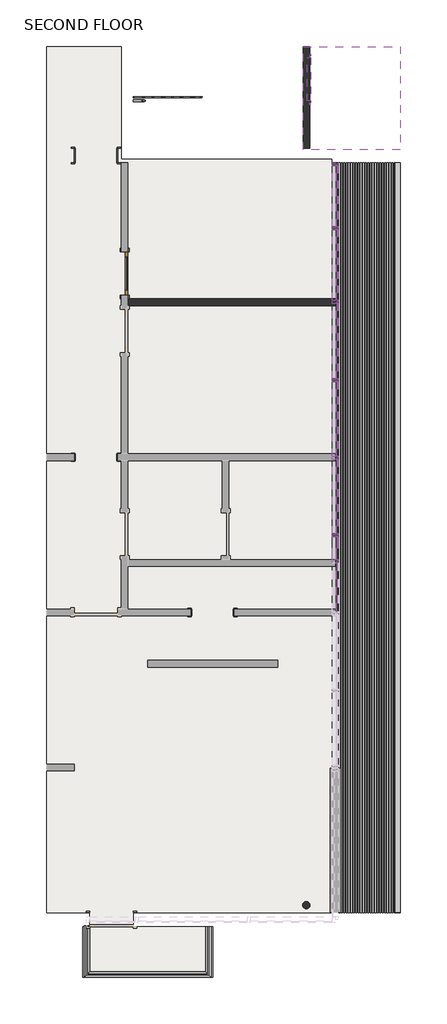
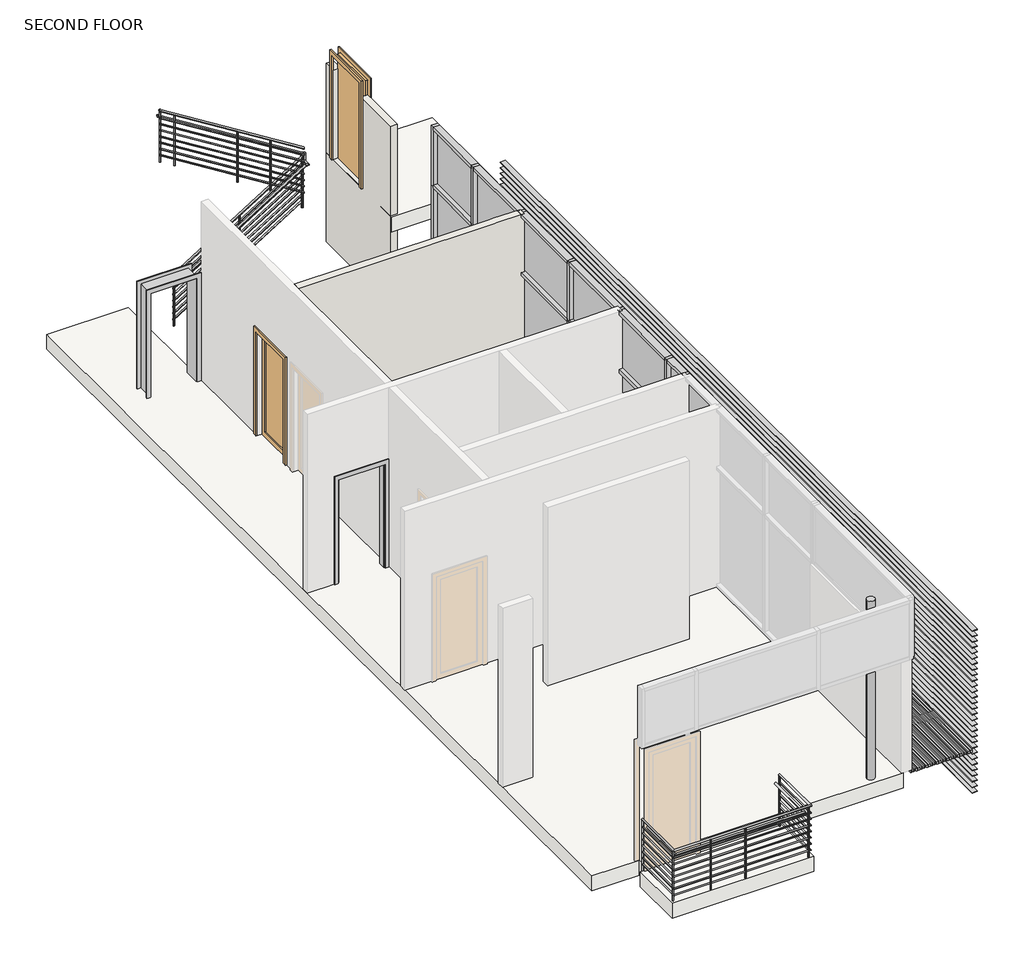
# One storey, part 2 of 2: 33 members, 14 plates, 5 proxies, 2 doors, 2 railings, 2 slabs, 2 walls, 1 column.
"""IFC4 building model written with IfcOpenShell, lengths in millimetres."""

from ifc_helpers import new_model, si_unit, point, frame, frame_2d, origin, place, context, project, spatial, polyline, circle_curve, trimmed, segment, composite_curve, outline, extrude, faceted_brep, transform, mapped, element, save
from components import balcony_floor_grill_balcony_floor_grill_0aae0050, balcony_wall_grill_balcony_wall_grill_33bcebcc, proxy_e62dbe84, proxy_6a329109, door_9814c99b, door_e49b49a8, member_f0fea5a5, member_591cd9a7, member_6ce1ec76, member_2b49869a, member_307239a2, member_323df77c, member_f5e9092a, member_d9503739, member_86d06fe4, member_b964ebf8, member_798c2a08, member_d386c7f1, member_79ceace6, member_75074519, member_ee409385, system_panel_system_panel_6c834083, system_panel_system_panel_0ca576fe, system_panel_system_panel_667b8a08, system_panel_system_panel_025269df, system_panel_system_panel_648afc43, system_panel_system_panel_8dc24f12, system_panel_system_panel_4f7dd7d8, system_panel_system_panel_d8a96c84, system_panel_system_panel_28f56e6c, system_panel_system_panel_3d0aa47e, system_panel_system_panel_958c1d96, system_panel_system_panel_35b29ec2, guardrail_pipe_d0326d6f, guardrail_pipe_03ab10f1

model = new_model("IFC4")

# Units and contexts
model_context = context("Model", 3, world=origin())
ifc_project = project(units=[si_unit("LENGTHUNIT", "METRE", prefix="MILLI")], contexts=[model_context])

# Site, building, storey
site = spatial("IfcSite", under=ifc_project)
building = spatial("IfcBuilding", under=site)
storey = spatial("IfcBuildingStorey", under=building, Name="SECOND FLOOR", Elevation=7315.2)

# Proxies
placement = place(None, origin())
balcony_floor_grill_balcony_floor_grill_shape = balcony_floor_grill_balcony_floor_grill_0aae0050(model_context)
element("IfcBuildingElementProxy", 1, Name="Balcony floor grill : Balcony floor grill", ObjectType="Balcony floor grill : Balcony floor grill", at=placement, inside=storey, context=model_context, shape_type="MappedRepresentation", body=[
    mapped(balcony_floor_grill_balcony_floor_grill_shape, transform((1705.1560388, 9152.359643, 7315.2), x_axis=(1.0, 0.0, 0.0), y_axis=(0.0, 1.0, 0.0), z_axis=(0.0, 0.0, 1.0))),
])
balcony_wall_grill_balcony_wall_grill_shape = balcony_wall_grill_balcony_wall_grill_33bcebcc(model_context)
element("IfcBuildingElementProxy", 2, Name="Balcony wall grill : Balcony wall grill", ObjectType="Balcony wall grill : Balcony wall grill", at=placement, inside=storey, context=model_context, shape_type="MappedRepresentation", body=[
    mapped(balcony_wall_grill_balcony_wall_grill_shape, transform((2898.9560388, 9152.359643, 7315.2), x_axis=(1.0, 0.0, 0.0), y_axis=(0.0, 1.0, 0.0), z_axis=(0.0, 0.0, 1.0))),
])
proxy_shape = proxy_e62dbe84(model_context)
element("IfcBuildingElementProxy", 3, Name="Opening-Cased : 36\" x 84\"", ObjectType="Opening-Cased : 36\" x 84\"", at=placement, inside=storey, context=model_context, shape_type="MappedRepresentation", body=[
    mapped(proxy_shape, transform((-970.0326179, -346.3689983, 7315.2), x_axis=(-1.0, 0.0, 0.0), y_axis=(0.0, -1.0, 0.0), z_axis=(0.0, 0.0, 1.0))),
])
element("IfcBuildingElementProxy", 4, Name="Opening-Cased : 36\" x 84\"", ObjectType="Opening-Cased : 36\" x 84\"", at=placement, inside=storey, context=model_context, shape_type="MappedRepresentation", body=[
    mapped(proxy_shape, transform((-3430.4685465, 2930.2310017, 7315.2), x_axis=(-1.0, 0.0, 0.0), y_axis=(0.0, -1.0, 0.0), z_axis=(0.0, 0.0, 1.0))),
])
proxy_2_shape = proxy_6a329109(model_context)
element("IfcBuildingElementProxy", 5, Name="Opening-Cased : 36\" x 84\"", ObjectType="Opening-Cased : 36\" x 84\"", at=placement, inside=storey, context=model_context, shape_type="MappedRepresentation", body=[
    mapped(proxy_2_shape, transform((-3430.4685465, 9304.759643, 7315.2), x_axis=(-1.0, 0.0, 0.0), y_axis=(0.0, -1.0, 0.0), z_axis=(0.0, 0.0, 1.0))),
])

# Column
element("IfcColumn", 6, ObjectType="Round Column : 06\" Diameter", at=placement, inside=storey, context=model_context, shape_type="SweptSolid", body=[
    extrude(outline(composite_curve([segment(trimmed(circle_curve(frame_2d((1019.3560388, -6532.140357)), 76.2), [point((1095.5560388, -6532.140357))], [point((943.1560388, -6532.140357))], False, "CARTESIAN"), True, "CONTINUOUS"), segment(trimmed(circle_curve(frame_2d((1019.3560388, -6532.140357)), 76.2), [point((943.1560388, -6532.140357))], [point((1019.3560388, -6455.940357))], False, "CARTESIAN"), True, "CONTINUOUS"), segment(trimmed(circle_curve(frame_2d((1019.3560388, -6532.140357)), 76.2), [point((1019.3560388, -6455.940357))], [point((1095.5560388, -6532.140357))], False, "CARTESIAN"), True, "CONTINUOUS")], self_intersect=False)), frame((0.0, 0.0, 7315.2), z_axis=(0.0, 0.0, 1.0), x_axis=(1.0, 0.0, 0.0)), (0.0, 0.0, 1.0), 3657.6),
])

# Doors
door_shape = door_9814c99b(model_context)
element("IfcDoor", 7, ObjectType="Single-Flush : 36\" x 84\"", at=placement, inside=storey, context=model_context, shape_type="MappedRepresentation", body=[
    mapped(door_shape, transform((1019.3560388, 10911.309643, 9144.0), x_axis=(0.0, 1.0, 0.0), y_axis=(-1.0, 0.0, 0.0), z_axis=(0.0, 0.0, 1.0))),
])
door_2_shape = door_e49b49a8(model_context)
element("IfcDoor", 8, ObjectType="Single-Glass 1 : 36\" x 84\"", at=placement, inside=storey, context=model_context, shape_type="MappedRepresentation", body=[
    mapped(door_2_shape, transform((-2819.1604947, 6812.3266583, 7315.2), x_axis=(0.0, -1.0, 0.0), y_axis=(1.0, 0.0, 0.0), z_axis=(0.0, 0.0, 1.0))),
])

# Members
member_shape = member_f0fea5a5(model_context)
element("IfcMember", 9, ObjectType="Rectangular Mullion : 2.5\" x 5\" rectangular", at=placement, inside=storey, context=model_context, shape_type="MappedRepresentation", body=[
    mapped(member_shape, transform((1628.9560388, 2916.659643, 7315.2), x_axis=(0.0, -1.0, 0.0), y_axis=(-1.0, 0.0, 0.0), z_axis=(0.0, 0.0, -1.0))),
])
element("IfcMember", 10, ObjectType="Rectangular Mullion : 2.5\" x 5\" rectangular", at=placement, inside=storey, context=model_context, shape_type="MappedRepresentation", body=[
    mapped(member_shape, transform((1628.9560388, 6218.659643, 7315.2), x_axis=(0.0, -1.0, 0.0), y_axis=(-1.0, 0.0, 0.0), z_axis=(0.0, 0.0, -1.0))),
])
element("IfcMember", 11, ObjectType="Rectangular Mullion : 2.5\" x 5\" rectangular", at=placement, inside=storey, context=model_context, shape_type="MappedRepresentation", body=[
    mapped(member_shape, transform((1628.9560388, 4554.959643, 7315.2), x_axis=(0.0, -1.0, 0.0), y_axis=(-1.0, 0.0, 0.0), z_axis=(0.0, 0.0, -1.0))),
])
element("IfcMember", 12, ObjectType="Rectangular Mullion : 2.5\" x 5\" rectangular", at=placement, inside=storey, context=model_context, shape_type="MappedRepresentation", body=[
    mapped(member_shape, transform((1628.9560388, 1278.359643, 7315.2), x_axis=(0.0, -1.0, 0.0), y_axis=(-1.0, 0.0, 0.0), z_axis=(0.0, 0.0, -1.0))),
])
element("IfcMember", 13, ObjectType="Rectangular Mullion : 2.5\" x 5\" rectangular", at=placement, inside=storey, context=model_context, shape_type="MappedRepresentation", body=[
    mapped(member_shape, transform((1628.9560388, 7768.059643, 7315.2), x_axis=(0.0, -1.0, 0.0), y_axis=(-1.0, 0.0, 0.0), z_axis=(0.0, 0.0, -1.0))),
])
element("IfcMember", 14, ObjectType="Rectangular Mullion : 2.5\" x 5\" rectangular", at=placement, inside=storey, context=model_context, shape_type="MappedRepresentation", body=[
    mapped(member_shape, transform((1628.9560388, 732.259643, 7315.2), x_axis=(0.0, -1.0, 0.0), y_axis=(-1.0, 0.0, 0.0), z_axis=(0.0, 0.0, -1.0))),
])
member_2_shape = member_591cd9a7(model_context)
element("IfcMember", 15, ObjectType="Rectangular Mullion : 2.5\" x 5\" rectangular", at=placement, inside=storey, context=model_context, shape_type="MappedRepresentation", body=[
    mapped(member_2_shape, transform((1628.9560388, 1310.109643, 9753.6), x_axis=(0.0, 0.0, 1.0), y_axis=(-1.0, 0.0, 0.0), z_axis=(0.0, -1.0, 0.0))),
])
element("IfcMember", 16, ObjectType="Rectangular Mullion : 2.5\" x 5\" rectangular", at=placement, inside=storey, context=model_context, shape_type="MappedRepresentation", body=[
    mapped(member_2_shape, transform((1628.9560388, 2948.409643, 9753.6), x_axis=(0.0, 0.0, 1.0), y_axis=(-1.0, 0.0, 0.0), z_axis=(0.0, -1.0, 0.0))),
])
member_3_shape = member_6ce1ec76(model_context)
element("IfcMember", 17, ObjectType="Rectangular Mullion : 2.5\" x 5\" rectangular", at=placement, inside=storey, context=model_context, shape_type="MappedRepresentation", body=[
    mapped(member_3_shape, transform((1628.9560388, 2948.409643, 10972.8), x_axis=(0.0, 0.0, 1.0), y_axis=(-1.0, 0.0, 0.0), z_axis=(0.0, -1.0, 0.0))),
])
element("IfcMember", 18, ObjectType="Rectangular Mullion : 2.5\" x 5\" rectangular", at=placement, inside=storey, context=model_context, shape_type="MappedRepresentation", body=[
    mapped(member_3_shape, transform((1628.9560388, 1310.109643, 10972.8), x_axis=(0.0, 0.0, 1.0), y_axis=(-1.0, 0.0, 0.0), z_axis=(0.0, -1.0, 0.0))),
])
member_4_shape = member_2b49869a(model_context)
element("IfcMember", 19, ObjectType="Rectangular Mullion : 2.5\" x 5\" rectangular", at=placement, inside=storey, context=model_context, shape_type="MappedRepresentation", body=[
    mapped(member_4_shape, transform((1628.9560388, 2916.659643, 9753.6), x_axis=(0.0, -1.0, 0.0), y_axis=(-1.0, 0.0, 0.0), z_axis=(0.0, 0.0, -1.0))),
])
element("IfcMember", 20, ObjectType="Rectangular Mullion : 2.5\" x 5\" rectangular", at=placement, inside=storey, context=model_context, shape_type="MappedRepresentation", body=[
    mapped(member_4_shape, transform((1628.9560388, 6218.659643, 9753.6), x_axis=(0.0, -1.0, 0.0), y_axis=(-1.0, 0.0, 0.0), z_axis=(0.0, 0.0, -1.0))),
])
element("IfcMember", 21, ObjectType="Rectangular Mullion : 2.5\" x 5\" rectangular", at=placement, inside=storey, context=model_context, shape_type="MappedRepresentation", body=[
    mapped(member_4_shape, transform((1628.9560388, 4554.959643, 9753.6), x_axis=(0.0, -1.0, 0.0), y_axis=(-1.0, 0.0, 0.0), z_axis=(0.0, 0.0, -1.0))),
])
element("IfcMember", 22, ObjectType="Rectangular Mullion : 2.5\" x 5\" rectangular", at=placement, inside=storey, context=model_context, shape_type="MappedRepresentation", body=[
    mapped(member_4_shape, transform((1628.9560388, 1278.359643, 9753.6), x_axis=(0.0, -1.0, 0.0), y_axis=(-1.0, 0.0, 0.0), z_axis=(0.0, 0.0, -1.0))),
])
element("IfcMember", 23, ObjectType="Rectangular Mullion : 2.5\" x 5\" rectangular", at=placement, inside=storey, context=model_context, shape_type="MappedRepresentation", body=[
    mapped(member_4_shape, transform((1628.9560388, 7768.059643, 9753.6), x_axis=(0.0, -1.0, 0.0), y_axis=(-1.0, 0.0, 0.0), z_axis=(0.0, 0.0, -1.0))),
])
element("IfcMember", 24, ObjectType="Rectangular Mullion : 2.5\" x 5\" rectangular", at=placement, inside=storey, context=model_context, shape_type="MappedRepresentation", body=[
    mapped(member_4_shape, transform((1628.9560388, 732.259643, 9753.6), x_axis=(0.0, -1.0, 0.0), y_axis=(-1.0, 0.0, 0.0), z_axis=(0.0, 0.0, -1.0))),
])
member_5_shape = member_307239a2(model_context)
element("IfcMember", 25, ObjectType="Rectangular Mullion : 2.5\" x 5\" rectangular", at=placement, inside=storey, context=model_context, shape_type="MappedRepresentation", body=[
    mapped(member_5_shape, transform((1628.9560388, 4586.709643, 9753.6), x_axis=(0.0, 0.0, 1.0), y_axis=(-1.0, 0.0, 0.0), z_axis=(0.0, -0.9999999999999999, 0.0))),
])
member_6_shape = member_323df77c(model_context)
element("IfcMember", 26, ObjectType="Rectangular Mullion : 2.5\" x 5\" rectangular", at=placement, inside=storey, context=model_context, shape_type="MappedRepresentation", body=[
    mapped(member_6_shape, transform((1628.9560388, 764.009643, 9753.6), x_axis=(0.0, 0.0, 1.0), y_axis=(-1.0, 0.0, 0.0), z_axis=(0.0, -1.0, 0.0))),
])
member_7_shape = member_f5e9092a(model_context)
element("IfcMember", 27, ObjectType="Rectangular Mullion : 2.5\" x 5\" rectangular", at=placement, inside=storey, context=model_context, shape_type="MappedRepresentation", body=[
    mapped(member_7_shape, transform((1628.9560388, 6250.409643, 9753.6), x_axis=(0.0, 0.0, 1.0), y_axis=(-1.0, 0.0, 0.0), z_axis=(0.0, -1.0, 0.0))),
])
member_8_shape = member_d9503739(model_context)
element("IfcMember", 28, ObjectType="Rectangular Mullion : 2.5\" x 5\" rectangular", at=placement, inside=storey, context=model_context, shape_type="MappedRepresentation", body=[
    mapped(member_8_shape, transform((1628.9560388, 4586.709643, 10972.8), x_axis=(0.0, 0.0, 1.0), y_axis=(-1.0, 0.0, 0.0), z_axis=(0.0, -1.0, 0.0))),
])
member_9_shape = member_86d06fe4(model_context)
element("IfcMember", 29, ObjectType="Rectangular Mullion : 2.5\" x 5\" rectangular", at=placement, inside=storey, context=model_context, shape_type="MappedRepresentation", body=[
    mapped(member_9_shape, transform((1628.9560388, 764.009643, 10972.8), x_axis=(0.0, 0.0, 1.0), y_axis=(-1.0, 0.0, 0.0), z_axis=(0.0, -1.0, 0.0))),
])
member_10_shape = member_b964ebf8(model_context)
element("IfcMember", 30, ObjectType="Rectangular Mullion : 2.5\" x 5\" rectangular", at=placement, inside=storey, context=model_context, shape_type="MappedRepresentation", body=[
    mapped(member_10_shape, transform((1628.9560388, 6250.409643, 10972.8), x_axis=(0.0, 0.0, 1.0), y_axis=(-1.0, 0.0, 0.0), z_axis=(0.0, -1.0, 0.0))),
])
member_11_shape = member_798c2a08(model_context)
element("IfcMember", 31, ObjectType="Rectangular Mullion : 2.5\" x 5\" rectangular", at=placement, inside=storey, context=model_context, shape_type="MappedRepresentation", body=[
    mapped(member_11_shape, transform((1628.9560388, 7799.809643, 10972.8), x_axis=(0.0, 0.0, 1.0), y_axis=(-1.0, 0.0, 0.0), z_axis=(0.0, -1.0, 0.0))),
])
member_12_shape = member_d386c7f1(model_context)
element("IfcMember", 32, ObjectType="Rectangular Mullion : 2.5\" x 5\" rectangular", at=placement, inside=storey, context=model_context, shape_type="MappedRepresentation", body=[
    mapped(member_12_shape, transform((1628.9560388, 7799.809643, 9753.6), x_axis=(0.0, 0.0, 1.0), y_axis=(-1.0, 0.0, 0.0), z_axis=(0.0, -1.0, 0.0))),
])
element("IfcMember", 33, ObjectType="Rectangular Mullion : 2.5\" x 5\" rectangular", at=placement, inside=storey, context=model_context, shape_type="MappedRepresentation", body=[
    mapped(member_11_shape, transform((1628.9560388, 9088.859643, 7315.2), x_axis=(0.0, 0.0, -1.0), y_axis=(-1.0, 0.0, 0.0), z_axis=(0.0, 1.0, 0.0))),
])
element("IfcMember", 34, ObjectType="Rectangular Mullion : 2.5\" x 5\" rectangular", at=placement, inside=storey, context=model_context, shape_type="MappedRepresentation", body=[
    mapped(member_3_shape, transform((1628.9560388, 2884.909643, 7315.2), x_axis=(0.0, 0.0, -1.0), y_axis=(-1.0, 0.0, 0.0), z_axis=(0.0, 1.0, 0.0))),
])
element("IfcMember", 35, ObjectType="Rectangular Mullion : 2.5\" x 5\" rectangular", at=placement, inside=storey, context=model_context, shape_type="MappedRepresentation", body=[
    mapped(member_3_shape, transform((1628.9560388, 4523.209643, 7315.2), x_axis=(0.0, 0.0, -1.0), y_axis=(-1.0, 0.0, 0.0), z_axis=(0.0, 1.0, 0.0))),
])
element("IfcMember", 36, ObjectType="Rectangular Mullion : 2.5\" x 5\" rectangular", at=placement, inside=storey, context=model_context, shape_type="MappedRepresentation", body=[
    mapped(member_8_shape, transform((1628.9560388, 6186.909643, 7315.2), x_axis=(0.0, 0.0, -1.0), y_axis=(-1.0, 0.0, 0.0), z_axis=(0.0, 1.0, 0.0))),
])
element("IfcMember", 37, ObjectType="Rectangular Mullion : 2.5\" x 5\" rectangular", at=placement, inside=storey, context=model_context, shape_type="MappedRepresentation", body=[
    mapped(member_9_shape, transform((1628.9560388, 1246.609643, 7315.2), x_axis=(0.0, 0.0, -1.0), y_axis=(-1.0, 0.0, 0.0), z_axis=(0.0, 1.0, 0.0))),
])
element("IfcMember", 38, ObjectType="Rectangular Mullion : 2.5\" x 5\" rectangular", at=placement, inside=storey, context=model_context, shape_type="MappedRepresentation", body=[
    mapped(member_10_shape, transform((1628.9560388, 7736.309643, 7315.2), x_axis=(0.0, 0.0, -1.0), y_axis=(-1.0, 0.0, 0.0), z_axis=(0.0, 1.0, 0.0))),
])
member_13_shape = member_79ceace6(model_context)
element("IfcMember", 39, ObjectType="Rectangular Mullion : 2.5\" x 5\" rectangular", at=placement, inside=storey, context=model_context, shape_type="MappedRepresentation", body=[
    mapped(member_13_shape, transform((1628.9560388, 700.509643, 7315.2), x_axis=(0.0, 0.0, -1.0), y_axis=(-1.0, 0.0, 0.0), z_axis=(0.0, 1.0, 0.0))),
])
member_14_shape = member_75074519(model_context)
element("IfcMember", 40, ObjectType="Rectangular Mullion : 2.5\" x 5\" rectangular", at=placement, inside=storey, context=model_context, shape_type="MappedRepresentation", body=[
    mapped(member_14_shape, transform((1628.9560388, 9152.359643, 10972.8), x_axis=(0.0, 1.0, 0.0), y_axis=(-1.0, 0.0, 0.0), z_axis=(0.0, 0.0, 1.0))),
])
member_15_shape = member_ee409385(model_context)
element("IfcMember", 41, ObjectType="Rectangular Mullion : 2.5\" x 5\" rectangular", at=placement, inside=storey, context=model_context, shape_type="MappedRepresentation", body=[
    mapped(member_15_shape, transform((1628.9560388, 9152.359643, 9753.6), x_axis=(0.0, 1.0, 0.0), y_axis=(-1.0, 0.0, 0.0), z_axis=(0.0, 0.0, 1.0))),
])

# Plates
system_panel_system_panel_shape = system_panel_system_panel_6c834083(model_context)
element("IfcPlate", 42, ObjectType="System Panel : System Panel", at=placement, inside=storey, context=model_context, shape_type="MappedRepresentation", body=[
    mapped(system_panel_system_panel_shape, transform((1628.9560388, 2097.509643, 7378.7), x_axis=(0.0, -1.0, 0.0), y_axis=(1.0, 0.0, 0.0), z_axis=(0.0, 0.0, 1.0))),
])
element("IfcPlate", 43, ObjectType="System Panel : System Panel", at=placement, inside=storey, context=model_context, shape_type="MappedRepresentation", body=[
    mapped(system_panel_system_panel_shape, transform((1628.9560388, 3735.809643, 7378.7), x_axis=(0.0, -1.0, 0.0), y_axis=(1.0, 0.0, 0.0), z_axis=(0.0, 0.0, 1.0))),
])
system_panel_system_panel_2_shape = system_panel_system_panel_0ca576fe(model_context)
element("IfcPlate", 44, ObjectType="System Panel : System Panel", at=placement, inside=storey, context=model_context, shape_type="MappedRepresentation", body=[
    mapped(system_panel_system_panel_2_shape, transform((1628.9560388, 2097.509643, 9785.35), x_axis=(0.0, -1.0, 0.0), y_axis=(1.0, 0.0, 0.0), z_axis=(0.0, 0.0, 1.0))),
])
element("IfcPlate", 45, ObjectType="System Panel : System Panel", at=placement, inside=storey, context=model_context, shape_type="MappedRepresentation", body=[
    mapped(system_panel_system_panel_2_shape, transform((1628.9560388, 3735.809643, 9785.35), x_axis=(0.0, -1.0, 0.0), y_axis=(1.0, 0.0, 0.0), z_axis=(0.0, 0.0, 1.0))),
])
system_panel_system_panel_3_shape = system_panel_system_panel_667b8a08(model_context)
element("IfcPlate", 46, ObjectType="System Panel : System Panel", at=placement, inside=storey, context=model_context, shape_type="MappedRepresentation", body=[
    mapped(system_panel_system_panel_3_shape, transform((1628.9560388, 5386.809643, 7378.7), x_axis=(0.0, -1.0, 0.0), y_axis=(1.0, 0.0, 0.0), z_axis=(0.0, 0.0, 1.0))),
])
system_panel_system_panel_4_shape = system_panel_system_panel_025269df(model_context)
element("IfcPlate", 47, ObjectType="System Panel : System Panel", at=placement, inside=storey, context=model_context, shape_type="MappedRepresentation", body=[
    mapped(system_panel_system_panel_4_shape, transform((1628.9560388, 5386.809643, 9785.35), x_axis=(0.0, -1.0, 0.0), y_axis=(1.0, 0.0, 0.0), z_axis=(0.0, 0.0, 1.0))),
])
system_panel_system_panel_5_shape = system_panel_system_panel_648afc43(model_context)
element("IfcPlate", 48, ObjectType="System Panel : System Panel", at=placement, inside=storey, context=model_context, shape_type="MappedRepresentation", body=[
    mapped(system_panel_system_panel_5_shape, transform((1628.9560388, 1005.309643, 7378.7), x_axis=(0.0, -1.0, 0.0), y_axis=(1.0, 0.0, 0.0), z_axis=(0.0, 0.0, 1.0))),
])
system_panel_system_panel_6_shape = system_panel_system_panel_8dc24f12(model_context)
element("IfcPlate", 49, ObjectType="System Panel : System Panel", at=placement, inside=storey, context=model_context, shape_type="MappedRepresentation", body=[
    mapped(system_panel_system_panel_6_shape, transform((1628.9560388, 1005.309643, 9785.35), x_axis=(0.0, -1.0, 0.0), y_axis=(1.0, 0.0, 0.0), z_axis=(0.0, 0.0, 1.0))),
])
system_panel_system_panel_7_shape = system_panel_system_panel_4f7dd7d8(model_context)
element("IfcPlate", 50, ObjectType="System Panel : System Panel", at=placement, inside=storey, context=model_context, shape_type="MappedRepresentation", body=[
    mapped(system_panel_system_panel_7_shape, transform((1628.9560388, 6993.359643, 7378.7), x_axis=(0.0, -1.0, 0.0), y_axis=(1.0, 0.0, 0.0), z_axis=(0.0, 0.0, 1.0))),
])
system_panel_system_panel_8_shape = system_panel_system_panel_d8a96c84(model_context)
element("IfcPlate", 51, ObjectType="System Panel : System Panel", at=placement, inside=storey, context=model_context, shape_type="MappedRepresentation", body=[
    mapped(system_panel_system_panel_8_shape, transform((1628.9560388, 6993.359643, 9785.35), x_axis=(0.0, -1.0, 0.0), y_axis=(1.0, 0.0, 0.0), z_axis=(0.0, 0.0, 1.0))),
])
system_panel_system_panel_9_shape = system_panel_system_panel_28f56e6c(model_context)
element("IfcPlate", 52, ObjectType="System Panel : System Panel", at=placement, inside=storey, context=model_context, shape_type="MappedRepresentation", body=[
    mapped(system_panel_system_panel_9_shape, transform((1628.9560388, 186.159643, 7378.7), x_axis=(0.0, -1.0, 0.0), y_axis=(1.0, 0.0, 0.0), z_axis=(0.0, 0.0, 1.0))),
])
system_panel_system_panel_10_shape = system_panel_system_panel_3d0aa47e(model_context)
element("IfcPlate", 53, ObjectType="System Panel : System Panel", at=placement, inside=storey, context=model_context, shape_type="MappedRepresentation", body=[
    mapped(system_panel_system_panel_10_shape, transform((1628.9560388, 186.159643, 9785.35), x_axis=(0.0, -1.0, 0.0), y_axis=(1.0, 0.0, 0.0), z_axis=(0.0, 0.0, 1.0))),
])
system_panel_system_panel_11_shape = system_panel_system_panel_958c1d96(model_context)
element("IfcPlate", 54, ObjectType="System Panel : System Panel", at=placement, inside=storey, context=model_context, shape_type="MappedRepresentation", body=[
    mapped(system_panel_system_panel_11_shape, transform((1628.9560388, 8444.334643, 7378.7), x_axis=(0.0, -1.0, 0.0), y_axis=(1.0, 0.0, 0.0), z_axis=(0.0, 0.0, 1.0))),
])
system_panel_system_panel_12_shape = system_panel_system_panel_35b29ec2(model_context)
element("IfcPlate", 55, ObjectType="System Panel : System Panel", at=placement, inside=storey, context=model_context, shape_type="MappedRepresentation", body=[
    mapped(system_panel_system_panel_12_shape, transform((1628.9560388, 8444.334643, 9785.35), x_axis=(0.0, -1.0, 0.0), y_axis=(1.0, 0.0, 0.0), z_axis=(0.0, 0.0, 1.0))),
])

# Railings
guardrail_pipe_shape = guardrail_pipe_d0326d6f(model_context)
element("IfcRailing", 56, ObjectType="Guardrail - Pipe", at=placement, inside=storey, context=model_context, shape_type="MappedRepresentation", body=[
    mapped(guardrail_pipe_shape, transform((0.0, 0.0, 0.0), x_axis=(1.0, 0.0, 0.0), y_axis=(0.0, 1.0, 0.0), z_axis=(0.0, 0.0, 1.0))),
])
guardrail_pipe_2_shape = guardrail_pipe_03ab10f1(model_context)
element("IfcRailing", 57, ObjectType="Guardrail - Pipe", at=placement, inside=storey, context=model_context, shape_type="MappedRepresentation", body=[
    mapped(guardrail_pipe_2_shape, transform((0.0, 0.0, 0.0), x_axis=(1.0, 0.0, 0.0), y_axis=(0.0, 1.0, 0.0), z_axis=(0.0, 0.0, 1.0))),
])

# Slabs
element("IfcSlab", 58, ObjectType="Generic - 12\"", at=placement, inside=storey, context=model_context, shape_type="SweptSolid", body=[
    extrude(outline(polyline([(-4467.0439612, -6684.540357), (-4467.0439612, 11603.459643), (-2889.0104947, 11603.459643), (-2889.0104947, 9222.209643), (1559.1060388, 9222.209643), (1559.1060388, -6684.540357), (-2638.2439612, -6684.540357), (-2638.2439612, -6989.340357), (-961.8439612, -6989.340357), (-961.8439612, -8056.140357), (-3705.0439612, -8056.140357), (-3705.0439612, -6989.340357), (-3552.6439612, -6989.340357), (-3552.6439612, -6684.540357), (-4467.0439612, -6684.540357)])), frame((0.0, 0.0, 7010.4), z_axis=(0.0, 0.0, 1.0), x_axis=(1.0, 0.0, 0.0)), (0.0, 0.0, 1.0), 304.8),
])
element("IfcSlab", 59, ObjectType="Generic - 12\"", at=placement, inside=storey, context=model_context, shape_type="SweptSolid", body=[
    extrude(outline(polyline([(3000.5560388, 11603.459643), (3000.5560388, 9425.409643), (949.5060388, 9425.409643), (949.5060388, 11603.459643), (3000.5560388, 11603.459643)])), frame((0.0, 0.0, 8839.2), z_axis=(0.0, 0.0, 1.0), x_axis=(1.0, 0.0, 0.0)), (0.0, 0.0, 1.0), 304.8),
])

# Walls
element("IfcWall", 60, ObjectType="Interior - 5 1/2\" Partition (1-hr)", at=placement, inside=storey, context=model_context, shape_type="SweptSolid", body=[
    extrude(outline(polyline([(11603.459643, 7315.2), (9457.159643, 7315.2), (9457.159643, 10972.8), (10454.109643, 10972.8), (10454.109643, 9144.0), (11368.509643, 9144.0), (11368.509643, 10972.8), (11603.459643, 10972.8), (11603.459643, 7315.2)])), frame((949.5060388, 0.0, 0.0), z_axis=(1.0, 0.0, 0.0), x_axis=(0.0, 1.0, 0.0)), (0.0, 0.0, 1.0), 139.7),
])
element("IfcWall", 61, ObjectType="Interior - 5 1/2\" Partition (1-hr)", at=placement, inside=storey, context=model_context, shape_type="Brep", body=[
    faceted_brep([(1628.9560388, 6272.5766583, 7315.2), (-2749.3104947, 6272.5766583, 7315.2), (-2749.3104947, 6272.5766583, 10972.8), (1033.1612654, 6272.5766583, 10972.8), (1107.1508122, 6272.5766583, 10972.8), (1628.9560388, 6272.5766583, 10972.8), (1628.9560388, 6132.8766583, 7315.2), (1628.9560388, 6132.8766583, 10972.8), (1091.7272548, 6132.8766583, 10972.8), (1048.5848228, 6132.8766583, 10972.8), (-2749.3104947, 6132.8766583, 10972.8), (-2749.3104947, 6132.8766583, 7315.2)], [[[0, 1, 2, 3, 4, 5]], [[6, 7, 8, 9, 10, 11]], [[1, 0, 6, 11]], [[5, 4, 3, 2, 10, 9, 8, 7]], [[0, 5, 7, 6]], [[2, 1, 11, 10]]]),
])

save(model, "model.ifc")
